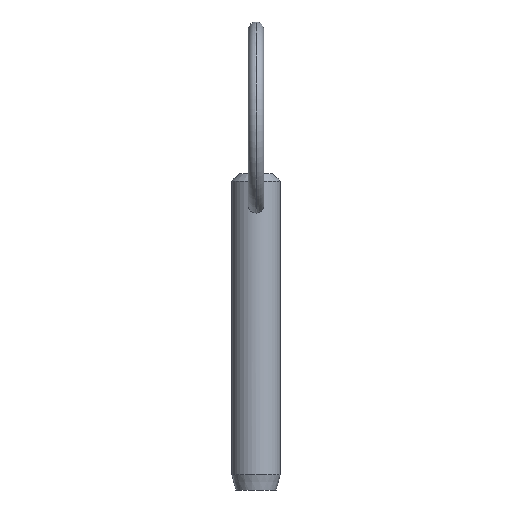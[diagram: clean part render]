
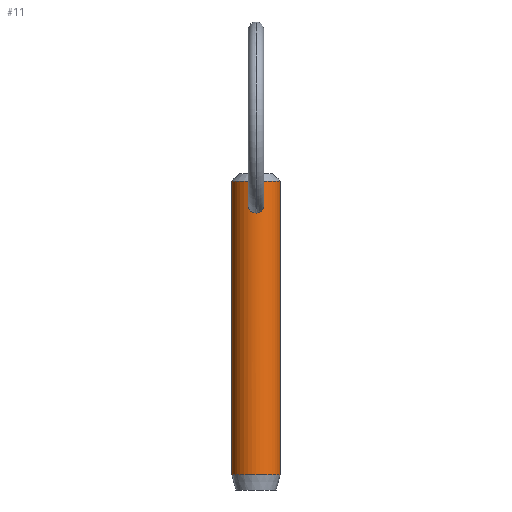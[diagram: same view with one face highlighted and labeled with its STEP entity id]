
A CAD part, front view. The second image highlights one B-rep face of the part: STEP entity #11.
In plain terms, the highlighted cylindrical face has radius 3.175 mm (diameter 6.35 mm), a partial arc.
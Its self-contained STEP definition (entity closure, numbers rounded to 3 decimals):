
#2 = EDGE_CURVE ( 'NONE', #154, #160, #193, .T. ) ;
#5 = CARTESIAN_POINT ( 'NONE',  ( 0.815, -3.07, 28.695 ) ) ;
#11 = ADVANCED_FACE ( 'NONE', ( #62, #127 ), #374, .T. ) ;
#20 = CARTESIAN_POINT ( 'NONE',  ( -0.815, -3.07, 28.695 ) ) ;
#23 = CARTESIAN_POINT ( 'NONE',  ( -0.888, -3.049, 28.809 ) ) ;
#25 = LINE ( 'NONE', #100, #104 ) ;
#26 = CARTESIAN_POINT ( 'NONE',  ( 0., 0., 27.9 ) ) ;
#27 = DIRECTION ( 'NONE',  ( 0., 0., -1. ) ) ;
#32 = AXIS2_PLACEMENT_3D ( 'NONE', #26, #325, #105 ) ;
#44 = EDGE_LOOP ( 'NONE', ( #451, #200, #107, #180 ) ) ;
#50 = CARTESIAN_POINT ( 'NONE',  ( 0.884, -3.055, 29.857 ) ) ;
#53 = EDGE_CURVE ( 'NONE', #69, #392, #420, .T. ) ;
#62 = FACE_OUTER_BOUND ( 'NONE', #44, .T. ) ;
#63 = CARTESIAN_POINT ( 'NONE',  ( 0., 0., 32.48 ) ) ;
#65 = CARTESIAN_POINT ( 'NONE',  ( -0.264, -3.165, 30.344 ) ) ;
#67 = CARTESIAN_POINT ( 'NONE',  ( 0., 0., -5.92 ) ) ;
#69 = VERTEX_POINT ( 'NONE', #399 ) ;
#70 = EDGE_CURVE ( 'NONE', #251, #69, #326, .T. ) ;
#88 = VERTEX_POINT ( 'NONE', #142 ) ;
#89 = EDGE_CURVE ( 'NONE', #88, #392, #25, .T. ) ;
#95 = ORIENTED_EDGE ( 'NONE', *, *, #409, .T. ) ;
#100 = CARTESIAN_POINT ( 'NONE',  ( 3.175, 0., 27.9 ) ) ;
#103 = CARTESIAN_POINT ( 'NONE',  ( -0.615, -3.116, 30.153 ) ) ;
#104 = VECTOR ( 'NONE', #432, 1000. ) ;
#105 = DIRECTION ( 'NONE',  ( -1., 0., 0. ) ) ;
#107 = ORIENTED_EDGE ( 'NONE', *, *, #70, .T. ) ;
#127 = FACE_BOUND ( 'NONE', #175, .T. ) ;
#137 = CARTESIAN_POINT ( 'NONE',  ( -1.004, -3.012, 29.195 ) ) ;
#140 = CARTESIAN_POINT ( 'NONE',  ( -0.134, -3.175, 28.303 ) ) ;
#142 = CARTESIAN_POINT ( 'NONE',  ( 3.175, 0., 32.48 ) ) ;
#154 = VERTEX_POINT ( 'NONE', #337 ) ;
#157 = AXIS2_PLACEMENT_3D ( 'NONE', #63, #324, #390 ) ;
#160 = VERTEX_POINT ( 'NONE', #479 ) ;
#166 = CARTESIAN_POINT ( 'NONE',  ( 0., -3.175, 30.382 ) ) ;
#173 = CARTESIAN_POINT ( 'NONE',  ( -0.133, -3.173, 30.374 ) ) ;
#175 = EDGE_LOOP ( 'NONE', ( #95, #425 ) ) ;
#178 = CARTESIAN_POINT ( 'NONE',  ( 0., -3.175, 28.303 ) ) ;
#180 = ORIENTED_EDGE ( 'NONE', *, *, #53, .T. ) ;
#193 = B_SPLINE_CURVE_WITH_KNOTS ( 'NONE', 3,
 ( #178, #140, #252, #364, #329, #20, #23, #398, #137, #292, #434, #103, #218, #289, #65, #173, #323, #220 ),
 .UNSPECIFIED., .F., .F.,
 ( 4, 2, 2, 2, 2, 2, 2, 2, 4 ),
 ( 0.006, 0.006, 0.007, 0.007, 0.008, 0.008, 0.009, 0.009, 0.009 ),
 .UNSPECIFIED. ) ;
#198 = CARTESIAN_POINT ( 'NONE',  ( 1.004, -3.012, 29.193 ) ) ;
#200 = ORIENTED_EDGE ( 'NONE', *, *, #481, .T. ) ;
#208 = CARTESIAN_POINT ( 'NONE',  ( 0.515, -3.135, 28.43 ) ) ;
#218 = CARTESIAN_POINT ( 'NONE',  ( -0.508, -3.136, 30.235 ) ) ;
#220 = CARTESIAN_POINT ( 'NONE',  ( 0., -3.175, 30.382 ) ) ;
#233 = B_SPLINE_CURVE_WITH_KNOTS ( 'NONE', 3,
 ( #166, #416, #309, #313, #383, #50, #241, #198, #353, #423, #5, #385, #208, #275, #312, #458 ),
 .UNSPECIFIED., .F., .F.,
 ( 4, 2, 2, 2, 2, 2, 2, 4 ),
 ( 0.003, 0.003, 0.004, 0.004, 0.005, 0.005, 0.006, 0.006 ),
 .UNSPECIFIED. ) ;
#241 = CARTESIAN_POINT ( 'NONE',  ( 0.992, -3.016, 29.594 ) ) ;
#242 = VECTOR ( 'NONE', #27, 1000. ) ;
#244 = CARTESIAN_POINT ( 'NONE',  ( 3.175, 0., -5.92 ) ) ;
#251 = VERTEX_POINT ( 'NONE', #306 ) ;
#252 = CARTESIAN_POINT ( 'NONE',  ( -0.269, -3.166, 28.329 ) ) ;
#254 = DIRECTION ( 'NONE',  ( 0., 0., 1. ) ) ;
#255 = CARTESIAN_POINT ( 'NONE',  ( -3.175, 0., 27.9 ) ) ;
#275 = CARTESIAN_POINT ( 'NONE',  ( 0.268, -3.166, 28.329 ) ) ;
#289 = CARTESIAN_POINT ( 'NONE',  ( -0.328, -3.159, 30.321 ) ) ;
#292 = CARTESIAN_POINT ( 'NONE',  ( -0.991, -3.016, 29.596 ) ) ;
#295 = DIRECTION ( 'NONE',  ( -1., 0., 0. ) ) ;
#306 = CARTESIAN_POINT ( 'NONE',  ( -3.175, 0., 32.48 ) ) ;
#309 = CARTESIAN_POINT ( 'NONE',  ( 0.269, -3.166, 30.35 ) ) ;
#312 = CARTESIAN_POINT ( 'NONE',  ( 0.134, -3.175, 28.303 ) ) ;
#313 = CARTESIAN_POINT ( 'NONE',  ( 0.51, -3.136, 30.234 ) ) ;
#323 = CARTESIAN_POINT ( 'NONE',  ( -0.067, -3.175, 30.382 ) ) ;
#324 = DIRECTION ( 'NONE',  ( 0., 0., -1. ) ) ;
#325 = DIRECTION ( 'NONE',  ( 0., 0., -1. ) ) ;
#326 = LINE ( 'NONE', #255, #242 ) ;
#329 = CARTESIAN_POINT ( 'NONE',  ( -0.629, -3.114, 28.505 ) ) ;
#337 = CARTESIAN_POINT ( 'NONE',  ( 0., -3.175, 28.303 ) ) ;
#338 = CIRCLE ( 'NONE', #157, 3.175 ) ;
#353 = CARTESIAN_POINT ( 'NONE',  ( 0.982, -3.02, 29.058 ) ) ;
#364 = CARTESIAN_POINT ( 'NONE',  ( -0.516, -3.135, 28.431 ) ) ;
#374 = CYLINDRICAL_SURFACE ( 'NONE', #32, 3.175 ) ;
#383 = CARTESIAN_POINT ( 'NONE',  ( 0.617, -3.116, 30.151 ) ) ;
#385 = CARTESIAN_POINT ( 'NONE',  ( 0.628, -3.114, 28.504 ) ) ;
#390 = DIRECTION ( 'NONE',  ( 1., 0., 0. ) ) ;
#392 = VERTEX_POINT ( 'NONE', #244 ) ;
#398 = CARTESIAN_POINT ( 'NONE',  ( -0.983, -3.02, 29.059 ) ) ;
#399 = CARTESIAN_POINT ( 'NONE',  ( -3.175, 0., -5.92 ) ) ;
#409 = EDGE_CURVE ( 'NONE', #160, #154, #233, .T. ) ;
#415 = AXIS2_PLACEMENT_3D ( 'NONE', #67, #254, #295 ) ;
#416 = CARTESIAN_POINT ( 'NONE',  ( 0.134, -3.175, 30.382 ) ) ;
#420 = CIRCLE ( 'NONE', #415, 3.175 ) ;
#423 = CARTESIAN_POINT ( 'NONE',  ( 0.888, -3.049, 28.809 ) ) ;
#425 = ORIENTED_EDGE ( 'NONE', *, *, #2, .T. ) ;
#432 = DIRECTION ( 'NONE',  ( 0., 0., -1. ) ) ;
#434 = CARTESIAN_POINT ( 'NONE',  ( -0.882, -3.055, 29.86 ) ) ;
#451 = ORIENTED_EDGE ( 'NONE', *, *, #89, .F. ) ;
#458 = CARTESIAN_POINT ( 'NONE',  ( 0., -3.175, 28.303 ) ) ;
#479 = CARTESIAN_POINT ( 'NONE',  ( 0., -3.175, 30.382 ) ) ;
#481 = EDGE_CURVE ( 'NONE', #88, #251, #338, .T. ) ;
